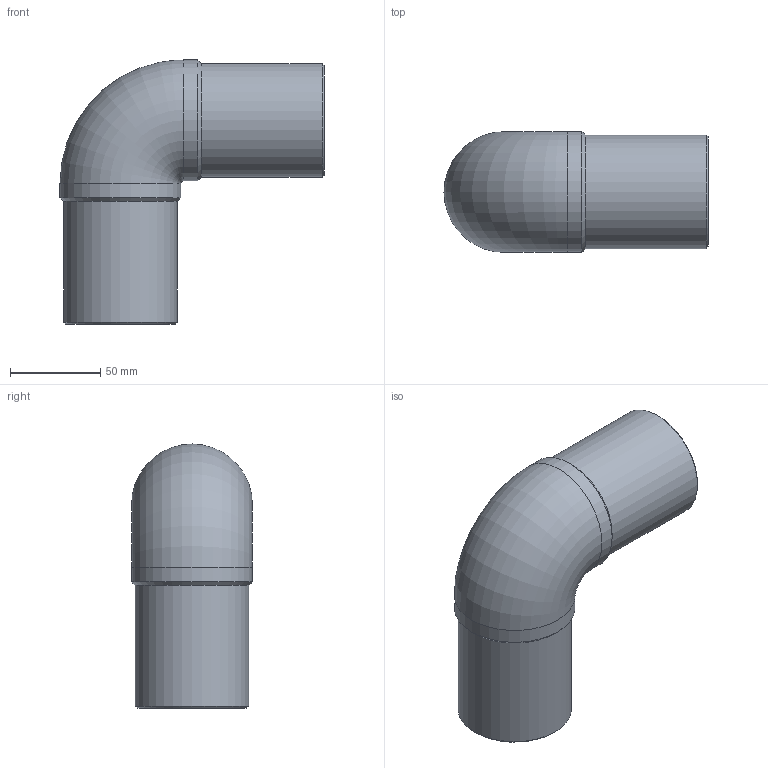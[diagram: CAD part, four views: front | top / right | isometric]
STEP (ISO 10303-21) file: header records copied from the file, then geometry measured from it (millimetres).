
FILE_DESCRIPTION(/* description */ ('Unknown'),/* implementation_level */ '2;1');
FILE_NAME(/* name */ 'G9P063G',/* time_stamp */ '2021-06-22T10:11:27+02:00',/* author */ ('Unknown'),/* organization */ ('Unknown'),/* preprocessor_version */ 'ST-DEVELOPER v16.7',/* originating_system */ 'Solid Edge',/* authorisation */ 'Unknown');
FILE_SCHEMA (('AUTOMOTIVE_DESIGN {1 0 10303 214 3 1 1}'));
Length unit declared in the file: millimetre
Products named in the file (1): G9P063G
Bounding box: 146.5 x 67 x 146.5 mm (x, y, z)
Volume: 295541 mm3; surface area: 77728.7 mm2
Topology: 1 solids, 1 shells, 14 faces, 34 edges, 22 vertices
Faces by surface type: cylinder 6, cone 4, torus 2, plane 2
Full cylindrical faces by diameter (mm): 48.8 x2, 63 x2, 67 x2
Entity records: 370 total; most frequent: CARTESIAN_POINT 70, DIRECTION 60, ORIENTED_EDGE 38, AXIS2_PLACEMENT_3D 30, EDGE_LOOP 27, FACE_BOUND 27, EDGE_CURVE 19, VERTEX_POINT 18
